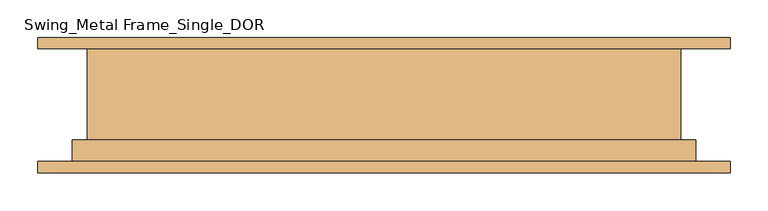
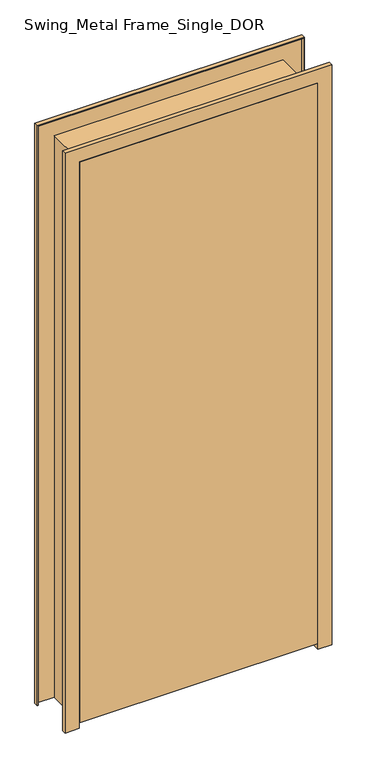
"""IFC4 building model written with IfcOpenShell, lengths in millimetres: door geometry, Swing_Metal Frame_Single_DOR : 2040h x 820 (2110x920 STUD)."""

from ifc_helpers import new_model, si_unit, frame, origin, place, context, project, spatial, polyline, outline, extrude, faceted_brep, source, transform, mapped, element, save


def swing_metal_frame_single_dor_15e57171(model_context):
    return source(origin(), model_context, "Body", "SolidModel", [
        extrude(outline(polyline([(410.0, -90.0), (-410.0, -90.0), (-410.0, -50.0), (410.0, -50.0), (410.0, -90.0)])), frame((0.0, 0.0, 20.0), z_axis=(0.0, 0.0, 1.0), x_axis=(1.0, 0.0, 0.0)), (0.0, 0.0, 1.0), 2040.0),
        faceted_brep([(-460.0, 90.0, 0.0), (-392.0, 90.0, 0.0), (-392.0, -48.0, 0.0), (-412.0, -48.0, 0.0), (-412.0, -90.0, 0.0), (-460.0, -90.0, 0.0), (-460.0, -75.0, 0.0), (-458.0, -75.0, 0.0), (-458.0, -88.0, 0.0), (-414.0, -88.0, 0.0), (-414.0, -46.0, 0.0), (-394.0, -46.0, 0.0), (-394.0, 88.0, 0.0), (-458.0, 88.0, 0.0), (-458.0, 75.0, 0.0), (-460.0, 75.0, 0.0), (-460.0, 75.0, 2110.0), (-460.0, 90.0, 2110.0), (-458.0, 75.0, 2108.0), (458.0, 75.0, 2108.0), (458.0, 75.0, 0.0), (460.0, 75.0, 0.0), (460.0, 75.0, 2110.0), (-458.0, 88.0, 2108.0), (-394.0, 88.0, 2044.0), (394.0, 88.0, 2044.0), (394.0, 88.0, 0.0), (458.0, 88.0, 0.0), (458.0, 88.0, 2108.0), (-394.0, -46.0, 2044.0), (-414.0, -46.0, 2064.0), (414.0, -46.0, 2064.0), (414.0, -46.0, 0.0), (394.0, -46.0, 0.0), (394.0, -46.0, 2044.0), (-414.0, -88.0, 2064.0), (-458.0, -88.0, 2108.0), (458.0, -88.0, 2108.0), (458.0, -88.0, 0.0), (414.0, -88.0, 0.0), (414.0, -88.0, 2064.0), (-458.0, -75.0, 2108.0), (-460.0, -75.0, 2110.0), (460.0, -75.0, 2110.0), (460.0, -75.0, 0.0), (458.0, -75.0, 0.0), (458.0, -75.0, 2108.0), (-460.0, -90.0, 2110.0), (-412.0, -90.0, 2062.0), (412.0, -90.0, 2062.0), (412.0, -90.0, 0.0), (460.0, -90.0, 0.0), (460.0, -90.0, 2110.0), (-412.0, -48.0, 2062.0), (-392.0, -48.0, 2042.0), (392.0, -48.0, 2042.0), (392.0, -48.0, 0.0), (412.0, -48.0, 0.0), (412.0, -48.0, 2062.0), (-392.0, 90.0, 2042.0), (460.0, 90.0, 2110.0), (460.0, 90.0, 0.0), (392.0, 90.0, 0.0), (392.0, 90.0, 2042.0)], [[[0, 1, 2, 3, 4, 5, 6, 7, 8, 9, 10, 11, 12, 13, 14, 15]], [[15, 16, 17, 0]], [[14, 18, 19, 20, 21, 22, 16, 15]], [[13, 23, 18, 14]], [[12, 24, 25, 26, 27, 28, 23, 13]], [[11, 29, 24, 12]], [[10, 30, 31, 32, 33, 34, 29, 11]], [[9, 35, 30, 10]], [[8, 36, 37, 38, 39, 40, 35, 9]], [[7, 41, 36, 8]], [[6, 42, 43, 44, 45, 46, 41, 7]], [[5, 47, 42, 6]], [[4, 48, 49, 50, 51, 52, 47, 5]], [[3, 53, 48, 4]], [[2, 54, 55, 56, 57, 58, 53, 3]], [[1, 59, 54, 2]], [[0, 17, 60, 61, 62, 63, 59, 1]], [[22, 21, 61, 60]], [[61, 21, 20, 27, 26, 33, 32, 39, 38, 45, 44, 51, 50, 57, 56, 62]], [[28, 27, 20, 19]], [[34, 33, 26, 25]], [[40, 39, 32, 31]], [[46, 45, 38, 37]], [[52, 51, 44, 43]], [[58, 57, 50, 49]], [[63, 62, 56, 55]], [[16, 22, 60, 17]], [[23, 28, 19, 18]], [[29, 34, 25, 24]], [[35, 40, 31, 30]], [[41, 46, 37, 36]], [[47, 52, 43, 42]], [[53, 58, 49, 48]], [[59, 63, 55, 54]]]),
    ])


if __name__ == "__main__":
    model = new_model("IFC4")
    model_context = context("Model", 3, world=origin())
    ifc_project = project(units=[si_unit("LENGTHUNIT", "METRE", prefix="MILLI")], contexts=[model_context])
    site = spatial("IfcSite", under=ifc_project)
    building = spatial("IfcBuilding", under=site)
    placement = place(None, origin())
    swing_metal_frame_single_dor_shape = swing_metal_frame_single_dor_15e57171(model_context)
    element("IfcDoor", 1, ObjectType="Swing_Metal Frame_Single_DOR : 2040h x 820 (2110x920 STUD)", at=placement, inside=building, context=model_context, shape_type="MappedRepresentation", body=[
        mapped(swing_metal_frame_single_dor_shape, transform((0.0, 0.0, 0.0), x_axis=(1.0, 0.0, 0.0), y_axis=(0.0, 1.0, 0.0), z_axis=(0.0, 0.0, 1.0))),
    ])
    save(model, "model.ifc")
